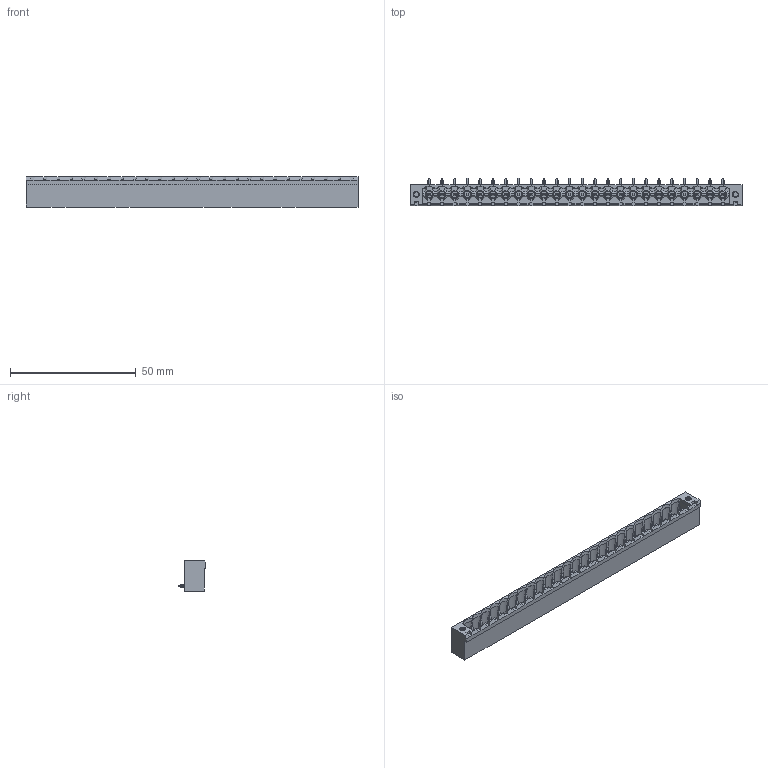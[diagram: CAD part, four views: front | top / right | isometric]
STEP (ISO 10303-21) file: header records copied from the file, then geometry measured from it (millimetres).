
FILE_DESCRIPTION(('Open CASCADE Model'),'2;1');
FILE_NAME('Open CASCADE Shape Model','2023-04-04T12:52:39',('Author'),( 'Open CASCADE'),'Open CASCADE STEP processor 6.5','Open CASCADE 6.5' ,'Unknown');
FILE_SCHEMA(('AUTOMOTIVE_DESIGN { 1 0 10303 214 1 1 1 1 }'));
Length unit declared in the file: millimetre
Products named in the file (2284): CADSOFTTOOLS 2; CADSOFTTOOLS 2.1; CADSOFTTOOLS 2.2; CADSOFTTOOLS 2.3; CADSOFTTOOLS 2.4; CADSOFTTOOLS 2.5; CADSOFTTOOLS 2.6; CADSOFTTOOLS 2.7; CADSOFTTOOLS 2.8; CADSOFTTOOLS 2.9; CADSOFTTOOLS 2.10; CADSOFTTOOLS 2.11; CADSOFTTOOLS 2.12; CADSOFTTOOLS 2.13; CADSOFTTOOLS 2.14; CADSOFTTOOLS 2.15; CADSOFTTOOLS 2.16; CADSOFTTOOLS 2.17; CADSOFTTOOLS 2.18; CADSOFTTOOLS 2.19; CADSOFTTOOLS 2.20; CADSOFTTOOLS 2.21; CADSOFTTOOLS 2.22; CADSOFTTOOLS 2.23; CADSOFTTOOLS 2.24; CADSOFTTOOLS 2.25; CADSOFTTOOLS 2.26; CADSOFTTOOLS 2.27; CADSOFTTOOLS 2.28; CADSOFTTOOLS 2.29; CADSOFTTOOLS 2.30; CADSOFTTOOLS 2.31; CADSOFTTOOLS 2.32; CADSOFTTOOLS 2.33; CADSOFTTOOLS 2.34; CADSOFTTOOLS 2.35; CADSOFTTOOLS 2.36; CADSOFTTOOLS 2.37; CADSOFTTOOLS 2.38; CADSOFTTOOLS 2.39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
Assembly tree (2283 placements, depth 2):
  CADSOFTTOOLS 2
    CADSOFTTOOLS 2.1
    CADSOFTTOOLS 2.2
    CADSOFTTOOLS 2.3
    CADSOFTTOOLS 2.4
    CADSOFTTOOLS 2.5
    CADSOFTTOOLS 2.6
    CADSOFTTOOLS 2.7
    CADSOFTTOOLS 2.8
    CADSOFTTOOLS 2.9
    CADSOFTTOOLS 2.10
    CADSOFTTOOLS 2.11
    CADSOFTTOOLS 2.12
    CADSOFTTOOLS 2.13
    CADSOFTTOOLS 2.14
    CADSOFTTOOLS 2.15
    CADSOFTTOOLS 2.16
    CADSOFTTOOLS 2.17
    CADSOFTTOOLS 2.18
    CADSOFTTOOLS 2.19
    CADSOFTTOOLS 2.20
    CADSOFTTOOLS 2.21
    CADSOFTTOOLS 2.22
    CADSOFTTOOLS 2.23
    CADSOFTTOOLS 2.24
    CADSOFTTOOLS 2.25
    CADSOFTTOOLS 2.26
    CADSOFTTOOLS 2.27
    CADSOFTTOOLS 2.28
    CADSOFTTOOLS 2.29
    CADSOFTTOOLS 2.30
    CADSOFTTOOLS 2.31
    CADSOFTTOOLS 2.32
    CADSOFTTOOLS 2.33
    CADSOFTTOOLS 2.34
    CADSOFTTOOLS 2.35
    CADSOFTTOOLS 2.36
    CADSOFTTOOLS 2.37
    CADSOFTTOOLS 2.38
    CADSOFTTOOLS 2.39
    CADSOFTTOOLS 2.40
    CADSOFTTOOLS 2.41
    CADSOFTTOOLS 2.42
    CADSOFTTOOLS 2.43
    CADSOFTTOOLS 2.44
    CADSOFTTOOLS 2.45
    CADSOFTTOOLS 2.46
    CADSOFTTOOLS 2.47
    CADSOFTTOOLS 2.48
    CADSOFTTOOLS 2.49
    CADSOFTTOOLS 2.50
    CADSOFTTOOLS 2.51
    CADSOFTTOOLS 2.52
    CADSOFTTOOLS 2.53
    CADSOFTTOOLS 2.54
    CADSOFTTOOLS 2.55
    CADSOFTTOOLS 2.56
    CADSOFTTOOLS 2.57
    CADSOFTTOOLS 2.58
    CADSOFTTOOLS 2.59
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Bounding box: 132.08 x 11.1 x 12 mm (x, y, z)
Surface area: 10740.4 mm2 (no closed solid volume)
Topology: 0 solids, 2283 shells, 2283 faces, 12038 edges, 11990 vertices
Faces by surface type: bspline 2283
Entity records: 422067 total; most frequent: CARTESIAN_POINT 276411, B_SPLINE_CURVE_WITH_KNOTS 21736, ORIENTED_EDGE 11990, EDGE_CURVE 11990, VERTEX_POINT 11990, SURFACE_CURVE 11990, PCURVE 11990, DEFINITIONAL_REPRESENTATION 11990
